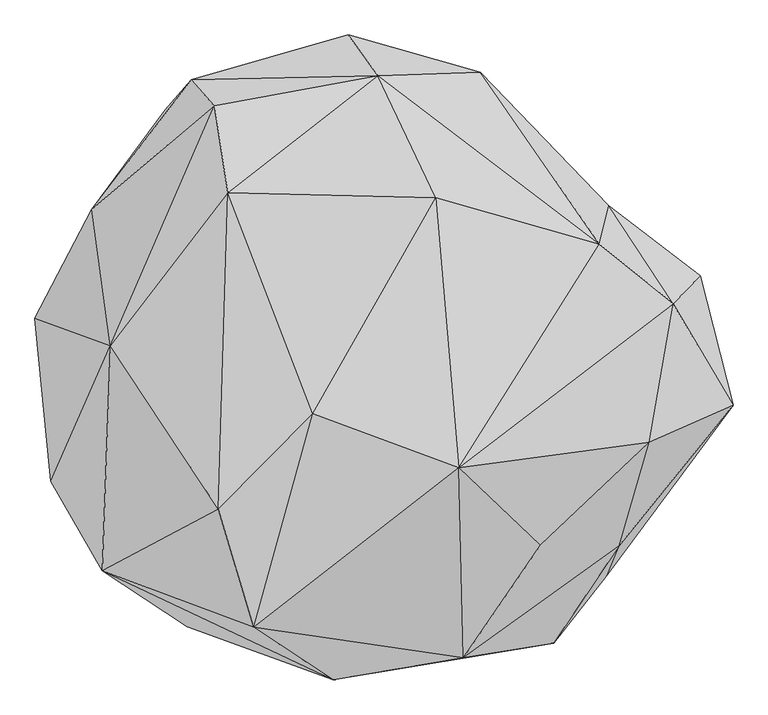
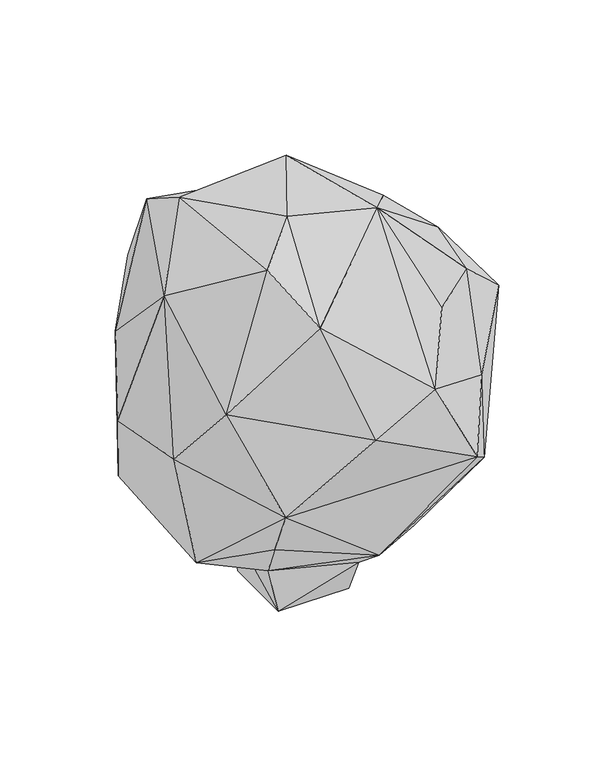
"""IFC4 building model written with IfcOpenShell, lengths in millimetres: geographic element geometry, Enscape AssetDefinition - Bush 135 Rose of Sharon : Enscape AssetDefinition - Bush 135 Rose of Sharon."""

from ifc_helpers import new_model, si_unit, origin, place, context, project, spatial, triangles, source, transform, mapped, element, save


def geographic_element_a0e0f227(model_context):
    return source(origin(), model_context, "Body", "Tessellation", [
        triangles([(131.5100051, -104.5919988, -25.4200009), (140.6870067, -143.2649925, 80.4780001), (-91.318999, -104.5919988, -25.4200009), (-91.318999, 118.2370053, -25.4200009), (-416.2400002, 209.9719946, 350.6619899), (-81.7269973, 166.3940041, 85.1940004), (19.4659993, 309.3320271, 172.7239956), (-258.7620034, 356.5599947, 413.7400074), (-131.0400029, -119.6720013, 133.4769999), (-255.935995, -369.5489911, 398.5080156), (-321.4570138, -54.0039984, 187.3269924), (49.2799998, -414.9579926, 301.2459836), (-485.374007, -215.0409984, 688.1470224), (-266.003004, -448.9769917, 558.0539821), (-389.4349866, 2.9300001, 1070.3109776), (-418.8979774, 222.409989, 827.9119652), (-510.6859795, 47.5809983, 666.5430359), (-402.673023, -358.8419775, 894.7820114), (-216.1349905, -259.8609916, 1253.3810532), (-200.8010064, 249.0240077, 1184.2370178), (40.7599984, 437.4699906, 1021.306992), (-259.2289989, 430.6040216, 899.9230494), (-222.2510053, 389.1249764, 1102.2739248), (-7.0000003, 502.984996, 757.7799814), (396.87999, 166.407012, 1030.7730566), (171.267998, -193.0450118, 1286.1071079), (134.3349962, 241.3309998, 1211.2310097), (-63.6810012, -106.7399963, 1288.4199028), (302.1999952, -317.823006, 981.6280186), (-158.6609914, -450.2240087, 1155.2209837), (178.1450129, -499.0220112, 862.7179802), (206.1169973, 442.9349914, 820.3139551), (612.4679935, -92.9520025, 812.2089993), (559.4959725, 115.3600007, 760.0719927), (516.3740044, 70.4599979, 940.0280142), (477.3780198, -152.5840004, 950.8450138), (-31.0740004, -534.2590319, 787.2650276), (323.6150216, -475.657994, 571.3969903), (429.0609836, -318.5810266, 714.5180145), (420.443995, 0.105, 362.1929721), (412.1680103, 228.5559983, 837.1510088), (294.4659832, 261.3129923, 279.1570158), (408.573971, -368.0939927, 474.2540099), (492.8260231, 15.9039995, 239.4959919), (278.2990013, -211.24401, 198.9009952), (117.8199977, 377.2540077, 277.6680079), (131.5100051, 118.2370053, -25.4200009), (-301.3130217, 383.0260028, 745.2579987)], [[45, 12, 2], [22, 48, 16], [5, 16, 48], [48, 8, 5], [22, 24, 48], [24, 8, 48], [8, 24, 7], [7, 24, 46], [46, 24, 32], [47, 7, 46], [42, 32, 41], [42, 46, 32], [46, 42, 47], [44, 45, 2], [47, 42, 44], [44, 2, 47], [38, 12, 43], [45, 43, 12], [43, 45, 44], [44, 42, 40], [44, 40, 43], [40, 42, 41], [40, 41, 34], [33, 40, 34], [40, 33, 43], [39, 38, 43], [39, 43, 33], [38, 39, 31], [31, 30, 37], [38, 31, 37], [39, 29, 31], [39, 33, 36], [36, 29, 39], [36, 33, 35], [34, 41, 35], [33, 34, 35], [35, 41, 25], [32, 25, 41], [29, 26, 31], [26, 35, 25], [26, 36, 35], [30, 31, 26], [29, 36, 26], [26, 28, 30], [27, 28, 26], [25, 27, 26], [25, 21, 27], [21, 32, 24], [21, 24, 22], [32, 21, 25], [22, 16, 23], [22, 23, 21], [20, 21, 23], [27, 21, 20], [27, 20, 28], [30, 28, 19], [28, 20, 19], [30, 19, 18], [37, 30, 18], [15, 20, 23], [23, 16, 15], [15, 19, 20], [18, 19, 15], [17, 16, 5], [15, 16, 17], [18, 15, 13], [15, 17, 13], [13, 14, 18], [38, 37, 14], [37, 18, 14], [12, 38, 14], [13, 11, 14], [17, 11, 13], [5, 11, 17], [14, 10, 12], [14, 11, 10], [9, 10, 11], [2, 12, 9], [10, 9, 12], [9, 11, 6], [5, 8, 6], [6, 8, 7], [47, 6, 7], [5, 6, 11], [6, 47, 4], [3, 2, 9], [9, 6, 3], [4, 3, 6], [3, 4, 47], [1, 3, 47], [47, 2, 1], [1, 2, 3]]),
    ])


if __name__ == "__main__":
    model = new_model("IFC4")
    model_context = context("Model", 3, world=origin())
    ifc_project = project(units=[si_unit("LENGTHUNIT", "METRE", prefix="MILLI")], contexts=[model_context])
    site = spatial("IfcSite", under=ifc_project)
    building = spatial("IfcBuilding", under=site)
    placement = place(None, origin())
    geographic_element_shape = geographic_element_a0e0f227(model_context)
    element("IfcGeographicElement", 1, ObjectType="Enscape AssetDefinition - Bush 135 Rose of Sharon : Enscape AssetDefinition - Bush 135 Rose of Sharon", at=placement, inside=building, context=model_context, shape_type="MappedRepresentation", body=[
        mapped(geographic_element_shape, transform((0.0, 0.0, 0.0), x_axis=(1.0, 0.0, 0.0), y_axis=(0.0, 1.0, 0.0), z_axis=(0.0, 0.0, 1.0))),
    ])
    save(model, "model.ifc")
